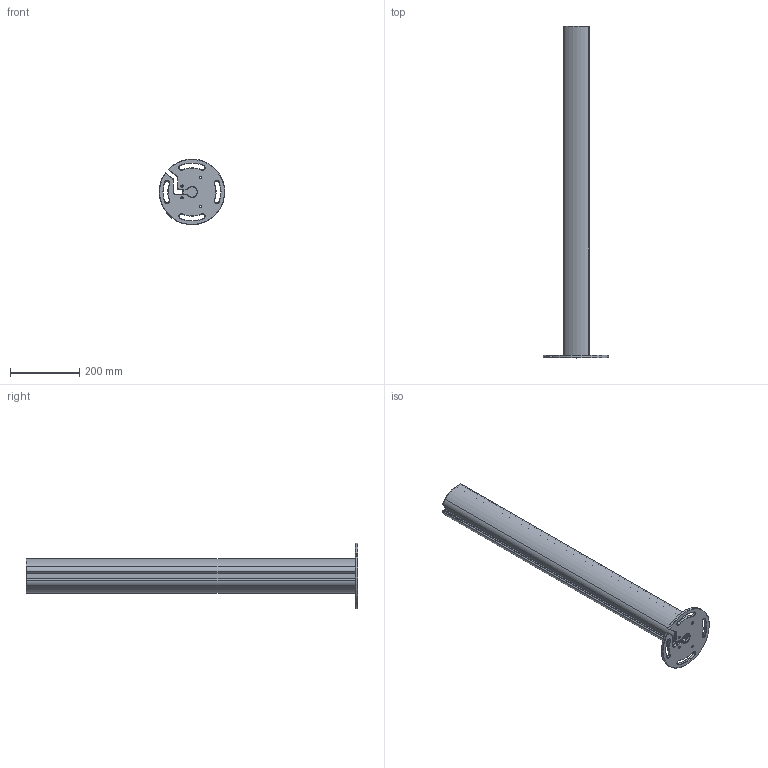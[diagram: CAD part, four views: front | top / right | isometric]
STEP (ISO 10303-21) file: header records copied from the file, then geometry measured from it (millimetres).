
FILE_DESCRIPTION((''),'2;1');
FILE_NAME('ESQC_ASM','2022-07-19T12:10:49',('18822879468'),(''),'CREO PARAMETRIC BY PTC INC, 2019010','CREO PARAMETRIC BY PTC INC, 2019010','');
FILE_SCHEMA(('CONFIG_CONTROL_DESIGN'));
Length unit declared in the file: millimetre
Products named in the file (5): 00; _-0001; _-0002; 000; ESQC_ASM
Assembly tree (4 placements, depth 2):
  ESQC_ASM
    00
    _-0001
    _-0002
    000
Bounding box: 189.81 x 960 x 189.85 mm (x, y, z)
Volume: 1466528 mm3; surface area: 765660 mm2
Topology: 4 solids, 4 shells, 239 faces, 613 edges, 378 vertices
Faces by surface type: cylinder 98, plane 73, cone 68
Entity records: 7388 total; most frequent: DIRECTION 1365, CARTESIAN_POINT 1235, ORIENTED_EDGE 1218, EDGE_CURVE 609, AXIS2_PLACEMENT_3D 508, VERTEX_POINT 378, VECTOR 349, LINE 349
